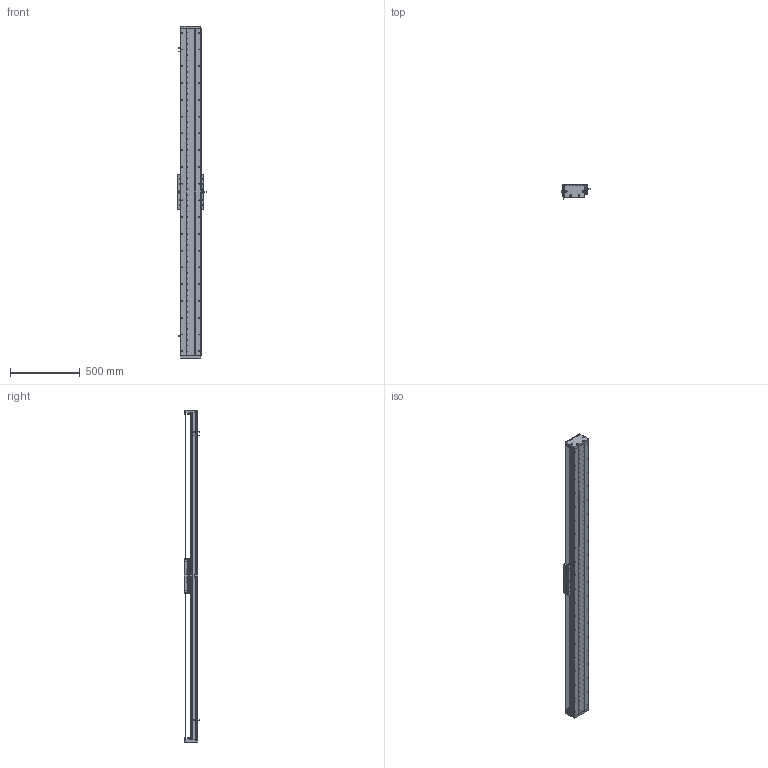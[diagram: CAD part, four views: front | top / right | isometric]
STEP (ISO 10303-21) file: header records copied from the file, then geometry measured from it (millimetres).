
FILE_DESCRIPTION (( 'STEP AP203' ), '1' );
FILE_NAME ('DA-C145-C3-T2040-C010-0.2 眻盄萇儂.STEP', '2025-08-14T01:30:25', ( '' ), ( '' ), 'SwSTEP 2.0', 'SolidWorks 2019', '' );
FILE_SCHEMA (( 'CONFIG_CONTROL_DESIGN' ));
Length unit declared in the file: millimetre
Products named in the file (32): 复件 DA146 钢带拉块^复件 CU145 钢带组件_DA-C145-C3-T-C010-0.2; 葩璃 PM-T45^DA-C145-C3-T-C010-0.2; 复件 DA145-C3-YB-B-00 压板B^CU145-W 滚珠滑台; 复件 DA145 钢带^复件 CU145 钢带组件_DA-C145-C3-T-C010-0.2; IU-CU145-L-00 菁釱(L2340); 复件 DA95-HK-GT-00 滑块钢轨^CU145-W-00 一体化滑动台板; 葩璃 CU145 詩湍郪璃^DA-C145-C3-T-C010-0.2; 复件 DA145-C3-DK-00 挡块^CU145-W 滚珠滑台; 复件 DA95-DB-00  挡板^CU145-W 滚珠滑台; 葩璃 DMA-010-0.2 黍杅芛^DA-C145-C3-T-C010-0.2; 复件 DA146 钢带垫块^复件 CU145 钢带组件_DA-C145-C3-T-C010-0.2; 复件 纯铜油杯 6x6mm^CU145-W 滚珠滑台; 葩璃 DA95-GT-T-00^IU-CU145-L 菁釱絳寢; 66245-CU145-HT-W-00 賑雄怢啣(3D芞祧)(00); 葩璃 DA145-C3-DP-A-00 菜えA^CU145-W 幗紩賑怢; 复件 DA145-C3-YB-A-00 压板A^CU145-W 滚珠滑台; DA-C145-C3-T2040-C010-0.2 眻盄萇儂; 葩璃 CKMA01-W060-TRL^DA-C145-C3-T-C010-0.2; 复件 半圆头内六角螺钉 M3×6^CU145-W 滚珠滑台; CU145-W-00 珨极趙賑雄怢啣; TAY01-M8; 葩璃 鞠褒情蹟譫 M3^DA-C145-C3-T-C010-0.2; 复件 DA95-MFP-01 密封片^CU145-W 滚珠滑台; 复件 DA145-GYP-00 光电感应片^DA-C145-C3-T-C010-0.2; 复件 内六角平端紧定螺钉 GB.T77-2000 M5×10^CU145-W 滚珠滑台; 葩璃 CKM03-W060-C1C2-TP-0.2^DA-C145-C3-T-C010-0.2; CU145-W 幗紩賑怢; 葩璃 XD-U-02L 棠掑喜^DA-C145-C3-T-C010-0.2; 葩璃 DA145-C3-DP-B-00 菜えB^CU145-W 幗紩賑怢; 葩璃 DA95-HXJ-00 遣喳砎蝶^DA-C145-C3-T-C010-0.2; 复件 DA145-DG 钢带端盖^复件 CU145 钢带组件_DA-C145-C3-T-C010-0.2; IU-CU145-L 菁釱絳寢
Assembly tree (103 placements, depth 4):
  DA-C145-C3-T2040-C010-0.2 眻盄萇儂
    IU-CU145-L 菁釱絳寢
      IU-CU145-L-00 菁釱(L2340)
      葩璃 DA95-GT-T-00^IU-CU145-L 菁釱絳寢  x4
    葩璃 CU145 詩湍郪璃^DA-C145-C3-T-C010-0.2
      复件 DA145-DG 钢带端盖^复件 CU145 钢带组件_DA-C145-C3-T-C010-0.2  x2
      复件 DA146 钢带拉块^复件 CU145 钢带组件_DA-C145-C3-T-C010-0.2  x2
      复件 DA146 钢带垫块^复件 CU145 钢带组件_DA-C145-C3-T-C010-0.2  x2
      复件 DA145 钢带^复件 CU145 钢带组件_DA-C145-C3-T-C010-0.2
    CU145-W 幗紩賑怢
      CU145-W-00 珨极趙賑雄怢啣
        66245-CU145-HT-W-00 賑雄怢啣(3D芞祧)(00)
        复件 DA95-HK-GT-00 滑块钢轨^CU145-W-00 一体化滑动台板  x8
      复件 DA95-MFP-01 密封片^CU145-W 滚珠滑台  x8
      复件 DA95-DB-00  挡板^CU145-W 滚珠滑台  x8
      复件 内六角平端紧定螺钉 GB.T77-2000 M5×10^CU145-W 滚珠滑台  x4
      复件 纯铜油杯 6x6mm^CU145-W 滚珠滑台  x4
      复件 半圆头内六角螺钉 M3×6^CU145-W 滚珠滑台  x16
      复件 DA145-C3-DK-00 挡块^CU145-W 滚珠滑台  x4
      葩璃 DA145-C3-DP-B-00 菜えB^CU145-W 幗紩賑怢  x2
      复件 DA145-C3-YB-B-00 压板B^CU145-W 滚珠滑台  x2
      葩璃 DA145-C3-DP-A-00 菜えA^CU145-W 幗紩賑怢  x3
      复件 DA145-C3-YB-A-00 压板A^CU145-W 滚珠滑台  x3
      TAY01-M8  x4
    葩璃 CKMA01-W060-TRL^DA-C145-C3-T-C010-0.2
    葩璃 PM-T45^DA-C145-C3-T-C010-0.2  x3
    葩璃 XD-U-02L 棠掑喜^DA-C145-C3-T-C010-0.2
    葩璃 DA95-HXJ-00 遣喳砎蝶^DA-C145-C3-T-C010-0.2  x4
    复件 DA145-GYP-00 光电感应片^DA-C145-C3-T-C010-0.2
    葩璃 DMA-010-0.2 黍杅芛^DA-C145-C3-T-C010-0.2
    葩璃 CKM03-W060-C1C2-TP-0.2^DA-C145-C3-T-C010-0.2
    葩璃 鞠褒情蹟譫 M3^DA-C145-C3-T-C010-0.2  x8
Bounding box: 203.5 x 108.45 x 2376 mm (x, y, z)
Volume: 11420896.2 mm3; surface area: 3776632.8 mm2
Topology: 99 solids, 131 shells, 4559 faces, 12878 edges, 8050 vertices
Faces by surface type: cylinder 2199, plane 1592, cone 690, torus 74, sphere 4
Entity records: 122092 total; most frequent: CARTESIAN_POINT 35634, ORIENTED_EDGE 17276, DIRECTION 16605, EDGE_CURVE 8638, AXIS2_PLACEMENT_3D 6232, VERTEX_POINT 5589, LINE 4141, VECTOR 4141
